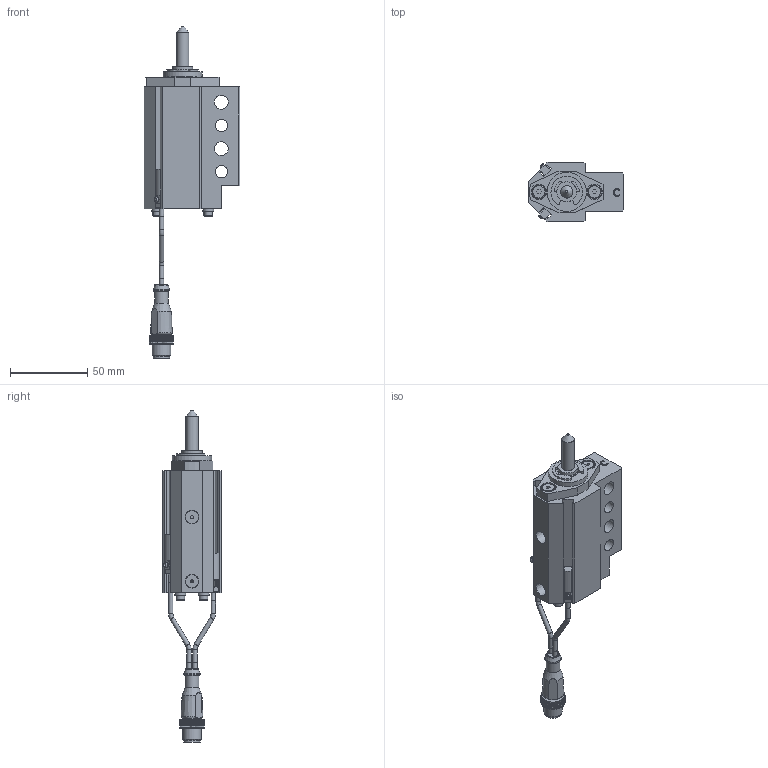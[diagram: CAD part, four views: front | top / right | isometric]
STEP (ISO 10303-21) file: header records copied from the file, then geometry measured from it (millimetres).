
FILE_DESCRIPTION(/* description */ ('NAAMS FLOATING MICRO PIN'),/* implementation_level */ '2;1');
FILE_NAME(/* name */ 'C:\Vault Workspace\CAD\Welker\Shot Pin\NMP\NMP080022CANL3.stp',/* time_stamp */ '2021-01-27T08:40:37-05:00',/* author */ ('WELKER'),/* organization */ (''),/* preprocessor_version */ 'ST-DEVELOPER v18.1',/* originating_system */ 'Autodesk Inventor 2020',/* authorisation */ '');
FILE_SCHEMA (('AUTOMOTIVE_DESIGN { 1 0 10303 214 3 1 1 }'));
Length unit declared in the file: millimetre
Products named in the file (16): NMPL01; NMP L3 SWITCH; L3 Connector; L3 Sensor 1; L3 Sensor 2; L3 Sensor cable; L3 Sensor cable 2; M3X0.5-8 SHCS; NL3; NMPE06; NMPE03; NMPE05-DIA-LENGTH; 985432A218; NMPE01C-PORT; RMPE02; M5X5 SHOULDER
Assembly tree (22 placements, depth 3):
  NMPL01
    NMP L3 SWITCH
      L3 Connector
      L3 Sensor 1
      L3 Sensor 2
      L3 Sensor cable
      L3 Sensor cable 2
    M3X0.5-8 SHCS  x4
    NL3  x4
    NMPE06
    NMPE03
    NMPE05-DIA-LENGTH
    985432A218
    NMPE01C-PORT
    RMPE02
    M5X5 SHOULDER  x2
Bounding box: 62 x 38.1 x 214.73 mm (x, y, z)
Volume: 110572.4 mm3; surface area: 45451.3 mm2
Topology: 21 solids, 21 shells, 752 faces, 2040 edges, 1364 vertices
Faces by surface type: plane 545, cylinder 144, cone 31, bspline 18, torus 11, sphere 3
Full cylindrical faces by diameter (mm): 2 x2, 2.459 x4, 2.9 x10, 3 x5, 3.242 x2, 3.4 x4, 4 x2, 5 x6, 5.5 x4, 7 x4, 8 x3, 8.3 x2, 9 x5, 10 x3, 10.4 x1, 10.5 x1, 12 x1, 13 x3, 16 x2, 19.05 x3, 21 x1, 22.5 x1, 23.672 x1, 24 x1, 25.4 x1, 25.5 x1, 26.5 x1, 28.677 x1, 29.21 x1, 31.75 x2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
Entity records: 23061 total; most frequent: CARTESIAN_POINT 4367, ORIENTED_EDGE 3778, DIRECTION 3695, EDGE_CURVE 1889, LINE 1377, VECTOR 1377, VERTEX_POINT 1269, AXIS2_PLACEMENT_3D 1159
